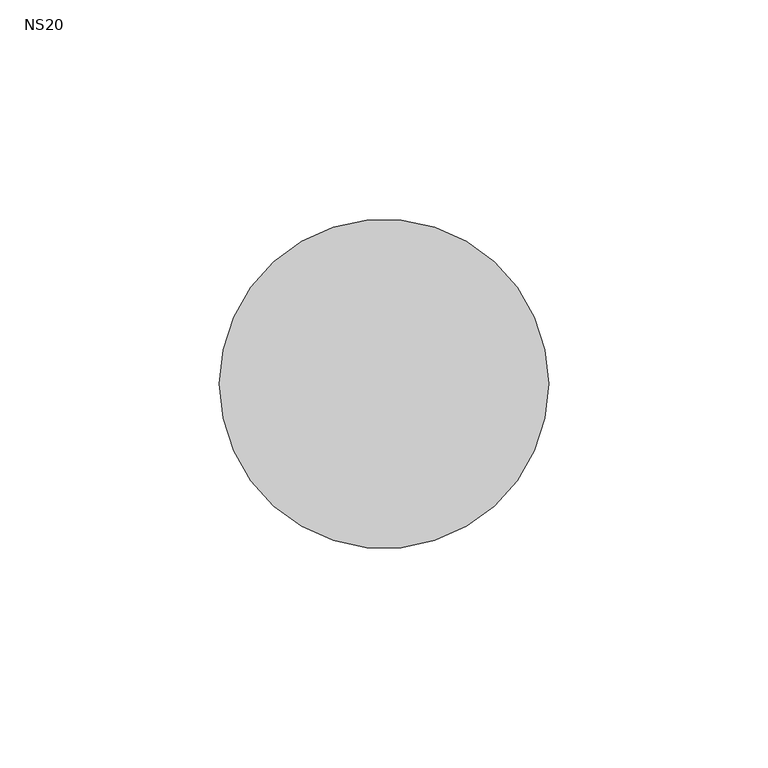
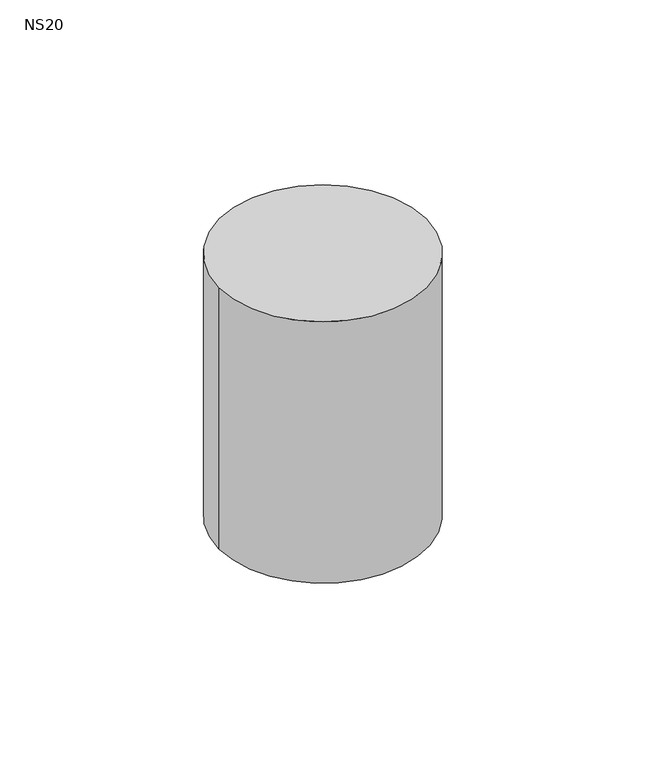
"""IFC4 building model written with IfcOpenShell, lengths in millimetres: unitary equipment geometry, ME_PE_UN_oval big LipuJet-P-OD extension stage 1_ACO : NS20."""

from ifc_helpers import new_model, si_unit, point, frame, frame_2d, origin, place, context, project, spatial, circle_curve, trimmed, segment, composite_curve, outline, extrude, source, transform, mapped, element, save


def ns20_de95ed54(model_context):
    return source(origin(), model_context, "Body", "SweptSolid", [
        extrude(outline(composite_curve([segment(trimmed(circle_curve(frame_2d((-320.0, 300.0)), 37.5), [point((-357.5, 300.0))], [point((-282.5, 300.0))], False, "CARTESIAN"), True, "CONTINUOUS"), segment(trimmed(circle_curve(frame_2d((-320.0, 300.0)), 37.5), [point((-282.5, 300.0))], [point((-357.5, 300.0))], False, "CARTESIAN"), True, "CONTINUOUS")], self_intersect=False)), frame((0.0, 0.0, 1640.0), z_axis=(0.0, 0.0, 1.0), x_axis=(1.0, 0.0, 0.0)), (0.0, 0.0, 1.0), 100.0),
    ])


if __name__ == "__main__":
    model = new_model("IFC4")
    model_context = context("Model", 3, world=origin())
    ifc_project = project(units=[si_unit("LENGTHUNIT", "METRE", prefix="MILLI")], contexts=[model_context])
    site = spatial("IfcSite", under=ifc_project)
    building = spatial("IfcBuilding", under=site)
    placement = place(None, origin())
    ns20_shape = ns20_de95ed54(model_context)
    element("IfcUnitaryEquipment", 1, ObjectType="ME_PE_UN_oval big LipuJet-P-OD extension stage 1_ACO : NS20", at=placement, inside=building, context=model_context, shape_type="MappedRepresentation", body=[
        mapped(ns20_shape, transform((0.0, 0.0, 0.0), x_axis=(1.0, 0.0, 0.0), y_axis=(0.0, 1.0, 0.0), z_axis=(0.0, 0.0, 1.0))),
    ])
    save(model, "model.ifc")
